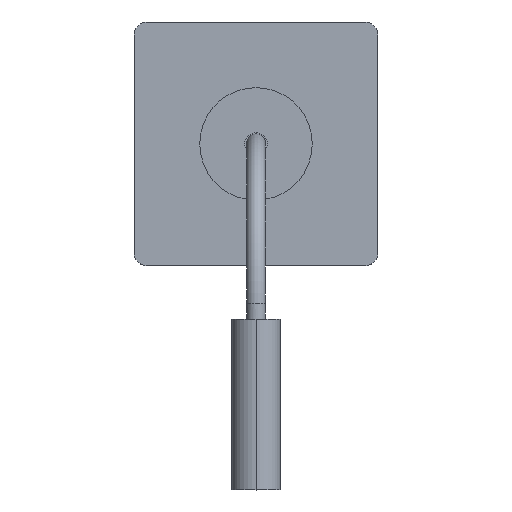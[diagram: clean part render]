
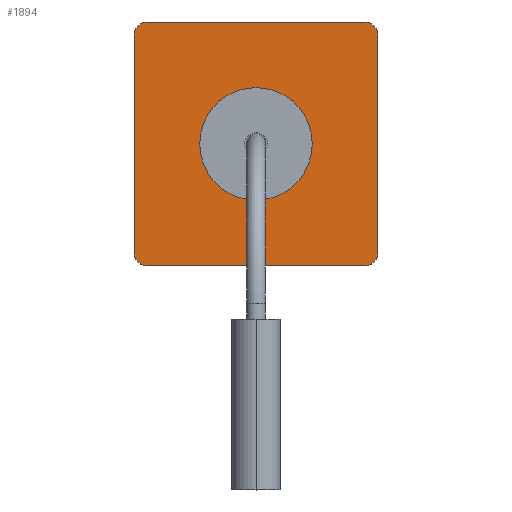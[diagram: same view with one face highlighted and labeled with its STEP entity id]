
A CAD part, top view. The second image highlights one B-rep face of the part: STEP entity #1894.
In plain terms, the highlighted planar face has unit normal (0, 0, 1).
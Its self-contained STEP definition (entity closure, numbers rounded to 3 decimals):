
#153=PLANE('',#2105);
#271=FACE_OUTER_BOUND('',#399,.T.);
#399=EDGE_LOOP('',(#1727,#1728,#1729,#1730,#1731,#1732,#1733,#1734));
#542=LINE('',#4020,#702);
#547=LINE('',#4034,#707);
#551=LINE('',#4046,#711);
#555=LINE('',#4058,#715);
#702=VECTOR('',#2620,304.8);
#707=VECTOR('',#2633,304.8);
#711=VECTOR('',#2645,304.8);
#715=VECTOR('',#2657,304.8);
#796=CIRCLE('',#2090,7.);
#798=CIRCLE('',#2094,7.);
#800=CIRCLE('',#2098,7.);
#802=CIRCLE('',#2102,7.);
#949=VERTEX_POINT('',#4018);
#950=VERTEX_POINT('',#4019);
#953=VERTEX_POINT('',#4027);
#955=VERTEX_POINT('',#4033);
#957=VERTEX_POINT('',#4039);
#959=VERTEX_POINT('',#4045);
#961=VERTEX_POINT('',#4051);
#963=VERTEX_POINT('',#4057);
#1199=EDGE_CURVE('',#949,#950,#542,.T.);
#1203=EDGE_CURVE('',#953,#949,#796,.T.);
#1206=EDGE_CURVE('',#955,#953,#547,.T.);
#1209=EDGE_CURVE('',#957,#955,#798,.T.);
#1212=EDGE_CURVE('',#959,#957,#551,.T.);
#1215=EDGE_CURVE('',#961,#959,#800,.T.);
#1218=EDGE_CURVE('',#963,#961,#555,.T.);
#1221=EDGE_CURVE('',#950,#963,#802,.T.);
#1727=ORIENTED_EDGE('',*,*,#1221,.T.);
#1728=ORIENTED_EDGE('',*,*,#1218,.T.);
#1729=ORIENTED_EDGE('',*,*,#1215,.T.);
#1730=ORIENTED_EDGE('',*,*,#1212,.T.);
#1731=ORIENTED_EDGE('',*,*,#1209,.T.);
#1732=ORIENTED_EDGE('',*,*,#1206,.T.);
#1733=ORIENTED_EDGE('',*,*,#1203,.T.);
#1734=ORIENTED_EDGE('',*,*,#1199,.T.);
#1894=ADVANCED_FACE('',(#271),#153,.T.);
#2090=AXIS2_PLACEMENT_3D('',#4028,#2626,#2627);
#2094=AXIS2_PLACEMENT_3D('',#4040,#2638,#2639);
#2098=AXIS2_PLACEMENT_3D('',#4052,#2650,#2651);
#2102=AXIS2_PLACEMENT_3D('',#4063,#2662,#2663);
#2105=AXIS2_PLACEMENT_3D('',#4066,#2668,#2669);
#2620=DIRECTION('',(0.,-1.,0.));
#2626=DIRECTION('center_axis',(0.,0.,1.));
#2627=DIRECTION('ref_axis',(1.,0.,0.));
#2633=DIRECTION('',(-1.,0.,0.));
#2638=DIRECTION('center_axis',(0.,0.,1.));
#2639=DIRECTION('ref_axis',(1.,0.,0.));
#2645=DIRECTION('',(0.,1.,0.));
#2650=DIRECTION('center_axis',(0.,0.,1.));
#2651=DIRECTION('ref_axis',(1.,0.,0.));
#2657=DIRECTION('',(1.,0.,0.));
#2662=DIRECTION('center_axis',(0.,0.,1.));
#2663=DIRECTION('ref_axis',(1.,0.,0.));
#2668=DIRECTION('center_axis',(0.,0.,1.));
#2669=DIRECTION('ref_axis',(0.,1.,0.));
#4018=CARTESIAN_POINT('',(-65.,58.,31.));
#4019=CARTESIAN_POINT('',(-65.,-58.,31.));
#4020=CARTESIAN_POINT('',(-65.,58.,31.));
#4027=CARTESIAN_POINT('',(-58.,65.,31.));
#4028=CARTESIAN_POINT('Origin',(-58.,58.,31.));
#4033=CARTESIAN_POINT('',(58.,65.,31.));
#4034=CARTESIAN_POINT('',(58.,65.,31.));
#4039=CARTESIAN_POINT('',(65.,58.,31.));
#4040=CARTESIAN_POINT('Origin',(58.,58.,31.));
#4045=CARTESIAN_POINT('',(65.,-58.,31.));
#4046=CARTESIAN_POINT('',(65.,-58.,31.));
#4051=CARTESIAN_POINT('',(58.,-65.,31.));
#4052=CARTESIAN_POINT('Origin',(58.,-58.,31.));
#4057=CARTESIAN_POINT('',(-58.,-65.,31.));
#4058=CARTESIAN_POINT('',(-58.,-65.,31.));
#4063=CARTESIAN_POINT('Origin',(-58.,-58.,31.));
#4066=CARTESIAN_POINT('Origin',(-51.,-58.,31.));
